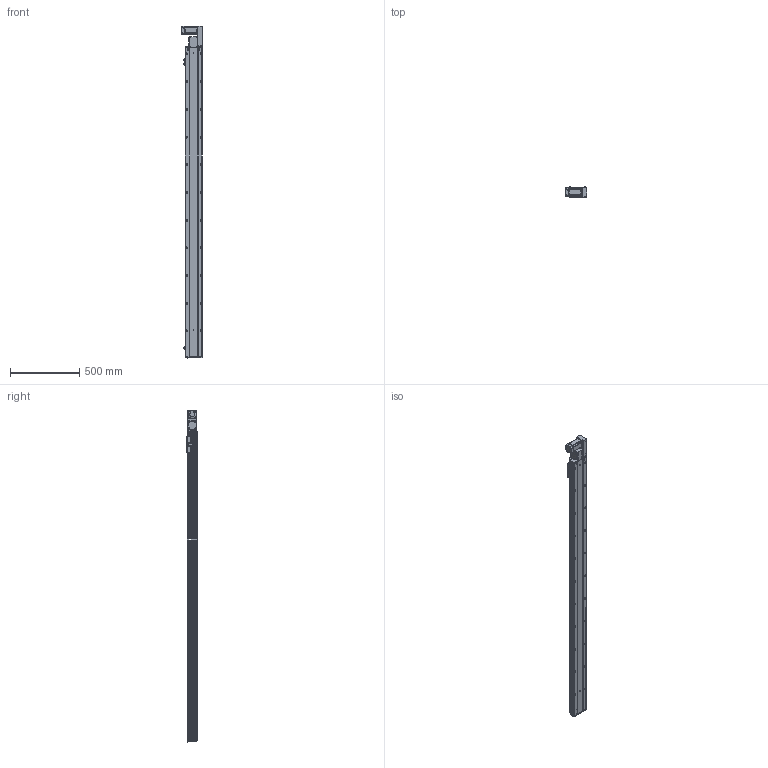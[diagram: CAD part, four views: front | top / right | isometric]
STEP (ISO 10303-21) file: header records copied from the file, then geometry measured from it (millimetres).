
FILE_DESCRIPTION (( 'STEP AP203' ), '1' );
FILE_NAME ('RY120-T-300-RK.SLDASM_2000.step', '2021-03-01T03:55:23', ( '盈信电脑' ), ( '东莞市道滘镇水果街19号' ), 'SwSTEP 2.0', 'SolidWorks 2012', '' );
FILE_SCHEMA (( 'CONFIG_CONTROL_DESIGN' ));
Length unit declared in the file: millimetre
Products named in the file (17): RY120-T-300-RK.SLDASM_2000; RY120-T蹟翐M4; RY120-T萇儂欶; RY120-T萇儂假蚾啣; RY120-T主同步轮轴承压盖; 15; 滅袉蝶18-10; RY120-T翋肮祭謫裔啣; RY120-T肮祭湍揤踡輸2; RY120-T肮祭湍揤踡輸1; RY120-T翋肮祭盓傅釱; RY120外置感应片(140共用）; RY120肮祭湍臏賑輸; 覜茼ん672; RY120綴裔啣; RY120-T-300-RK倰第奻裔啣_2000; RY120-T-300-RK倰第菁釱_2000
Assembly tree (22 placements, depth 2):
  RY120-T-300-RK.SLDASM_2000
    RY120-T-300-RK倰第菁釱_2000
    RY120-T-300-RK倰第奻裔啣_2000
    RY120肮祭湍臏賑輸
    RY120綴裔啣
    覜茼ん672  x3
    RY120外置感应片(140共用）
    RY120-T肮祭湍揤踡輸1
    RY120-T肮祭湍揤踡輸2
    RY120-T翋肮祭盓傅釱
    滅袉蝶18-10  x2
    RY120-T翋肮祭謫裔啣
    15
    RY120-T萇儂假蚾啣
    RY120-T蹟翐M4  x4
    RY120-T萇儂欶
    RY120-T主同步轮轴承压盖
Bounding box: 155.5 x 73 x 2397.5 mm (x, y, z)
Volume: 5806454.7 mm3; surface area: 2218300.1 mm2
Topology: 23 solids, 23 shells, 3116 faces, 8528 edges, 5432 vertices
Faces by surface type: plane 1452, cylinder 1250, cone 325, bspline 89
Entity records: 100265 total; most frequent: CARTESIAN_POINT 26230, ORIENTED_EDGE 15344, DIRECTION 14470, EDGE_CURVE 7672, VERTEX_POINT 5019, AXIS2_PLACEMENT_3D 4919, LINE 4632, VECTOR 4632
